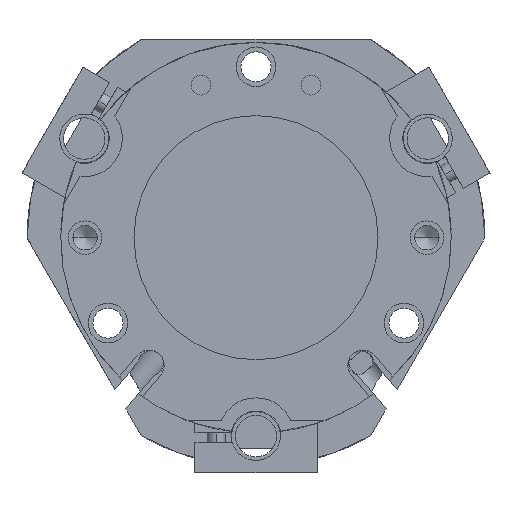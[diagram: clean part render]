
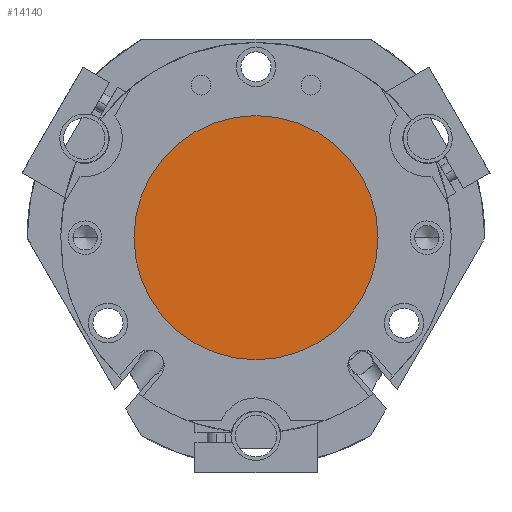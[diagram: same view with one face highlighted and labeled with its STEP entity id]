
A CAD part, front view. The second image highlights one B-rep face of the part: STEP entity #14140.
In plain terms, the highlighted planar face has unit normal (0, -1, 0) as drawn and (0, 1, 0) by its records, which use the part's own axes.
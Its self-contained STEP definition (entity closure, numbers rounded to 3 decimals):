
#1393 = CARTESIAN_POINT ( 'NONE',  ( 0., 3.8, -20. ) ) ;
#1486 = DIRECTION ( 'NONE',  ( 0., 0., 1. ) ) ;
#1853 = DIRECTION ( 'NONE',  ( 0., 1., 0. ) ) ;
#2123 = AXIS2_PLACEMENT_3D ( 'NONE', #8674, #1853, #9795 ) ;
#3330 = EDGE_CURVE ( 'NONE', #4410, #14410, #5028, .T. ) ;
#3513 = ORIENTED_EDGE ( 'NONE', *, *, #11343, .T. ) ;
#4410 = VERTEX_POINT ( 'NONE', #6753 ) ;
#5028 = CIRCLE ( 'NONE', #2123, 20. ) ;
#5147 = CARTESIAN_POINT ( 'NONE',  ( 0., 3.8, 0. ) ) ;
#5691 = AXIS2_PLACEMENT_3D ( 'NONE', #5147, #13086, #6278 ) ;
#6016 = PLANE ( 'NONE',  #7389 ) ;
#6278 = DIRECTION ( 'NONE',  ( 0., 0., -1. ) ) ;
#6753 = CARTESIAN_POINT ( 'NONE',  ( 0., 3.8, 20. ) ) ;
#7389 = AXIS2_PLACEMENT_3D ( 'NONE', #8267, #8325, #1486 ) ;
#8267 = CARTESIAN_POINT ( 'NONE',  ( 0., 3.8, 0. ) ) ;
#8305 = ORIENTED_EDGE ( 'NONE', *, *, #3330, .T. ) ;
#8325 = DIRECTION ( 'NONE',  ( 0., 1., 0. ) ) ;
#8674 = CARTESIAN_POINT ( 'NONE',  ( 0., 3.8, 0. ) ) ;
#9795 = DIRECTION ( 'NONE',  ( 0., 0., -1. ) ) ;
#9948 = CIRCLE ( 'NONE', #5691, 20. ) ;
#10467 = EDGE_LOOP ( 'NONE', ( #3513, #8305 ) ) ;
#11343 = EDGE_CURVE ( 'NONE', #14410, #4410, #9948, .T. ) ;
#13044 = FACE_OUTER_BOUND ( 'NONE', #10467, .T. ) ;
#13086 = DIRECTION ( 'NONE',  ( 0., 1., 0. ) ) ;
#14140 = ADVANCED_FACE ( 'NONE', ( #13044 ), #6016, .T. ) ;
#14410 = VERTEX_POINT ( 'NONE', #1393 ) ;
